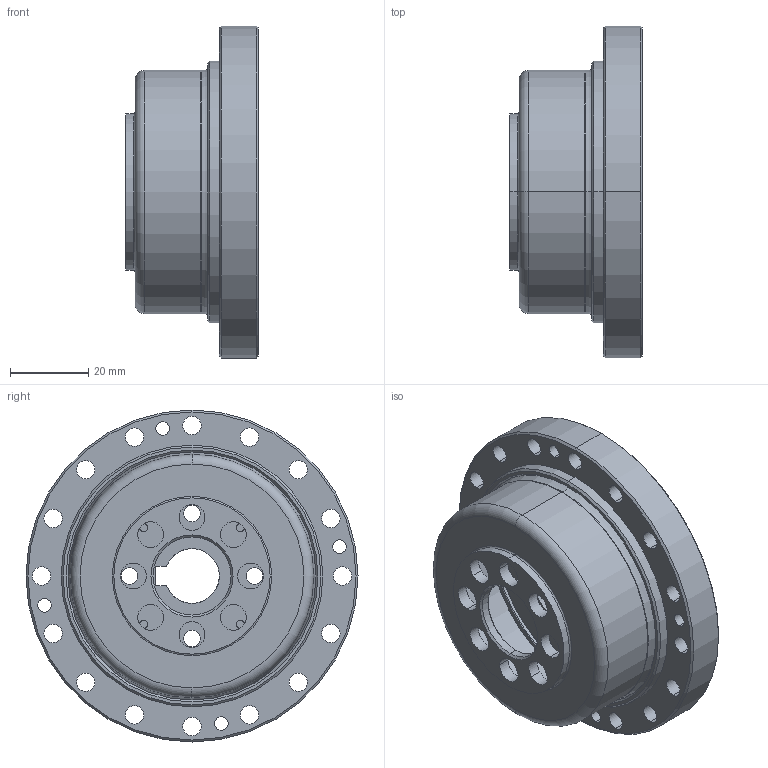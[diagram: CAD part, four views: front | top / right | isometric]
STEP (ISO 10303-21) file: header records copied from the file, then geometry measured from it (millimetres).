
FILE_DESCRIPTION (( 'STEP AP203' ), '1' );
FILE_NAME ('LCS-25-XXX-P-I.STEP', '2017-06-22T02:44:46', ( 'Windows 蚚誧' ), ( 'Users' ), 'SwSTEP 2.0', 'SolidWorks 2013', '' );
FILE_SCHEMA (( 'CONFIG_CONTROL_DESIGN' ));
Length unit declared in the file: millimetre
Products named in the file (9): DB-25-I; RZC-25内外圈+钢球; LCS-25-XXX-P-I; RZC-25悵厥殤; 柔性轴承RZC-25; LHS-25-XXX-P02; LCS-25-XXX-P01-I; ﾊｮﾗﾖﾇﾐｲﾛｳﾁﾍｷﾂﾝｶ､M2.5 x 6_ISO 7046-1 - M2.5 x 6 - Z --- 6C; LCS-25-XXX-P03-I
Assembly tree (11 placements, depth 3):
  LCS-25-XXX-P-I
    LCS-25-XXX-P03-I
    DB-25-I
    柔性轴承RZC-25
      RZC-25内外圈+钢球
      RZC-25悵厥殤
    LHS-25-XXX-P02
    LCS-25-XXX-P01-I
    ﾊｮﾗﾖﾇﾐｲﾛｳﾁﾍｷﾂﾝｶ､M2.5 x 6_ISO 7046-1 - M2.5 x 6 - Z --- 6C  x4
Bounding box: 34 x 85 x 85 mm (x, y, z)
Volume: 52933 mm3; surface area: 52363.8 mm2
Topology: 34 solids, 34 shells, 562 faces, 1439 edges, 904 vertices
Faces by surface type: cylinder 221, plane 163, cone 92, sphere 46, torus 40
Entity records: 14247 total; most frequent: DIRECTION 2611, CARTESIAN_POINT 2271, ORIENTED_EDGE 2080, AXIS2_PLACEMENT_3D 1133, EDGE_CURVE 1040, CIRCLE 679, VERTEX_POINT 673, EDGE_LOOP 551
